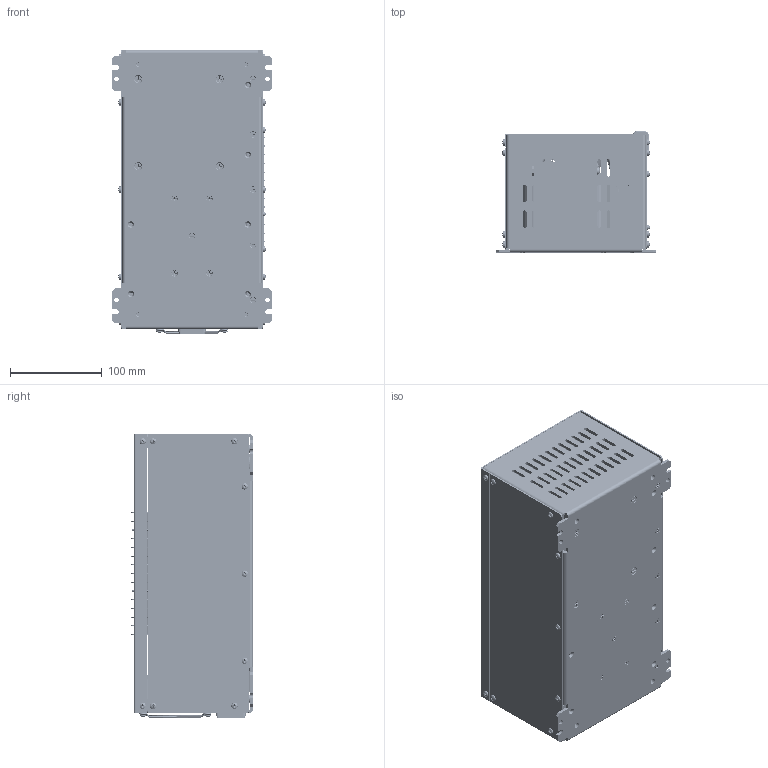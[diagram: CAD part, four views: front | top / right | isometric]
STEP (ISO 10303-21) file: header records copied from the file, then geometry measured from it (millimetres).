
FILE_DESCRIPTION (( 'STEP AP214' ), '1' );
FILE_NAME ('DPFHP001.STEP', '2010-11-11T22:11:48', ( 'Tim Raines' ), ( 'Anaheim Automation' ), 'SwSTEP 2.0', 'SolidWorks 2010', '' );
FILE_SCHEMA (( 'AUTOMOTIVE_DESIGN' ));
Length unit declared in the file: inch
Products named in the file (49): CON-929834-01-03; Machine Screw Nut Hex_AI_MSHXNUT 0.138-32-D-S; Thru-hole Standoff_PMI_PEM SOS-632-24 ---S; Heat Sink, BLHP101; Chassis, DPFHP Series, 110V Version; Flat Head Screw_AI_CR-FHMS 0.164-32x0.5x0.5-S; DPFHP001; Cover, DPFHP001; Self-clinching Nut_PMI_PEM CLSS-032-0 ---S; Heat Sink Bracket, BLHP101 driver; LED-SPR5731_LED-SPR5731-RED; LED-LTM Series_LED-LTM180; VRG-LM317T, bent up legs; CON-22-03-2051; RES-3W-.05; Side Plate, DPFHP001, driver; CAP-0049; POT-93PR10K; Side Plate, DPFHP001, blank; CON-0039; AA2654BPCB; SUB-AA2654B-1; Internal Tooth-lock Washers_AI_Internal Tooth LW Type A-0.138; Pan Cross Head_AI_CR-PHMS 0.138-32x0.5x0.5-S; Transformer, AA2786B; CAP-0063; CAP-0064; QDS-836; FAN-GUARD; FAN-0003; Flat Head Screw_AI_CR-FHMS 0.138-32x0.25x0.25-S; Pan Cross Head_AI_CR-PHMS 0.112-40x0.3125x0.3125-S; WSH-KE3049; DIO-MBR1635; Flat Washer Type A Narrow_AI_Preferred Narrow FW 0.138; DIO-KBU8G_Longest pins; AA2656APCB; Sub Chassis, Power supply, DPFHP001; Pan Cross Head_AI_CR-PHMS 0.112-40x0.25x0.25-S; TMB-SSB6FP140702NN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
Assembly tree (141 placements, depth 4):
  DPFHP001
    Pan Cross Head_AI_CR-PHMS 0.138-32x0.25x0.25-S  x20
    PLG-723-30 63
    Internal Tooth-lock Washers_AI_Internal Tooth LW Type A-0.138  x4
    Flat Washer Type A Narrow_AI_Preferred Narrow FW 0.164  x5
    Flat Head Screw_AI_CR-FHMS 0.164-32x0.5x0.5-S  x4
    Pan Cross Head_AI_CR-PHMS 0.138-32x0.5x0.5-S  x4
    Machine Screw Nut Hex_AI_MSHXNUT 0.138-32-D-S  x4
    Internal Tooth-lock Washers_AI_Internal Tooth LW Type A-0.164  x4
    Flat Head Screw_AI_CR-FHMS 0.138-32x0.25x0.25-S  x10
    SUB-AA2654B-1
      Pan Cross Head_AI_CR-PHMS 0.112-40x0.3125x0.3125-S  x6
      Pan Cross Head_AI_CR-PHMS 0.112-40x0.25x0.25-S  x3
      CON-929834-01-03  x3
      TRS-BU941P  x6
      WSH-KE3049  x3
      RES-3W-.05  x4
      CAP-0049
      LED-SPR5731_LED-SPR5731-RED
      VRG-LM317T, bent up legs
      POT-93PR10K
      TMB-SSB6FP140702NN
      Heat Sink, BLHP101
        Thru-hole Standoff_PMI_PEM SOS-632-24 ---S  x2
        Heat Sink Bracket, BLHP101 driver
      CON-0039
      DIO-MUR1515  x2
      AA2654BPCB
      LED-LTM Series_LED-LTM180
      CON-22-03-2051
    Machine Screw Nut Hex_AI_MSHXNUT 0.164-32-D-S  x4
    Transformer, AA2786B
    FAN-GUARD
    FAN-0003
    Chassis, DPFHP Series, 110V Version
      Self-clinching Nut_PMI_PEM CLSS-032-0 ---S  x4
      Chassis, DPFHP Series, 110V Version
    Cover, DPFHP001
    SUB-AA2656A-1
      CAP-0064  x2
      Pan Cross Head_AI_CR-PHMS 0.112-40x0.3125x0.3125-S  x6
      DIO-KBU8G_Longest pins
      DIO-MBR1635  x2
      AA2656APCB
      QDS-836  x9
      CAP-0063
      Pan Cross Head_AI_CR-PHMS 0.138-32x0.5x0.5-S
      Flat Washer Type A Narrow_AI_Preferred Narrow FW 0.138
      Sub Chassis, Power supply, DPFHP001
      WSH-KE3049  x2
    Side Plate, DPFHP001, driver
    Side Plate, DPFHP001, blank
Bounding box: 175.26 x 132.72 x 310.03 mm (x, y, z)
Volume: 1793536.1 mm3; surface area: 779246.3 mm2
Topology: 145 solids, 149 shells, 14190 faces, 36627 edges, 23354 vertices
Faces by surface type: plane 6292, cylinder 3159, cone 2728, bspline 1562, torus 368, sphere 81
Entity records: 425281 total; most frequent: CARTESIAN_POINT 133300, ORIENTED_EDGE 43774, DIRECTION 36880, EDGE_CURVE 21887, VERTEX_POINT 14190, VECTOR 14022, LINE 14022, AXIS2_PLACEMENT_3D 11429
